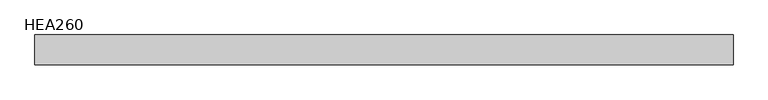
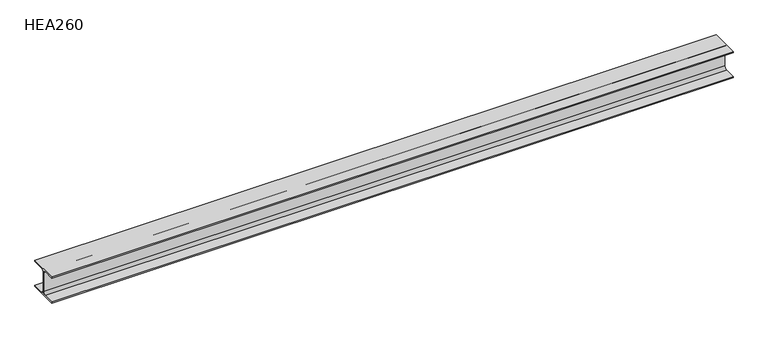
"""IFC4 building model written with IfcOpenShell, lengths in millimetres: beam geometry, HE-A : HEA260."""

import ifcopenshell
import ifcopenshell.guid

model = None  # the IFC model being written
_history = None  # IfcOwnerHistory: only IFC2X3 demands one
_inside = {}  # id of a spatial element -> (the spatial element, [elements in it])
_under = {}  # id of a project, library or spatial element -> (it, [spatial elements below it])
_declared = {}  # id of a project -> (the project, [libraries it declares])
_typed = {}  # id of a type object -> (the type object, [elements of that type])
_made_of = {}  # id of a material, layer set ... -> (it, [elements and type objects made of it])


def new_model(schema):
    """Start an empty IFC model of exactly this schema.

    Asked for "IFC4X3", IfcOpenShell would pick the latest addendum, in which some entities
    have other attributes; the version numbers below select the first issue.
    IFC2X3 requires an IfcOwnerHistory on every rooted entity: one is made here for all.
    """
    global model, _history
    if schema == "IFC4X3":
        model = ifcopenshell.file(schema_version=(4, 3, 0, 0))
    else:
        model = ifcopenshell.file(schema=schema)
    _inside.clear()
    _under.clear()
    _declared.clear()
    _typed.clear()
    _made_of.clear()
    _history = None
    if model.schema == "IFC2X3":
        org = make("IfcOrganization", Name="unknown")
        user = make(
            "IfcPersonAndOrganization",
            ThePerson=make("IfcPerson", FamilyName="unknown"),
            TheOrganization=org,
        )
        app = make(
            "IfcApplication",
            ApplicationDeveloper=org,
            Version="unknown",
            ApplicationFullName="unknown",
            ApplicationIdentifier="unknown",
        )
        _history = make(
            "IfcOwnerHistory",
            OwningUser=user,
            OwningApplication=app,
            ChangeAction="ADDED",
            CreationDate=0,
        )
    return model


def make(cls, **values):
    """One entity of the class cls with the attributes given. An attribute that is None is left unset."""
    return model.create_entity(
        cls, **{name: value for name, value in values.items() if value is not None}
    )


def rooted(cls, **values):
    """An entity with a GlobalId (a new one), such as an element, a storey or a relation."""
    return make(cls, GlobalId=ifcopenshell.guid.new(), OwnerHistory=_history, **values)


def si_unit(unit_type, name, prefix=None):
    """IfcSIUnit, for example si_unit("LENGTHUNIT", "METRE", prefix="MILLI")."""
    return make("IfcSIUnit", UnitType=unit_type, Prefix=prefix, Name=name)


def assignment(units):
    """IfcUnitAssignment: the units of a project."""
    return None if units is None else make("IfcUnitAssignment", Units=units)


def point(xyz):
    """IfcCartesianPoint."""
    return None if xyz is None else make("IfcCartesianPoint", Coordinates=xyz)


def direction(xyz):
    """IfcDirection."""
    return None if xyz is None else make("IfcDirection", DirectionRatios=xyz)


def frame(location, z_axis=None, x_axis=None):
    """IfcAxis2Placement3D, a coordinate frame: its origin and axes. An axis left out is left unset."""
    return make(
        "IfcAxis2Placement3D",
        Location=point(location),
        Axis=direction(z_axis),
        RefDirection=direction(x_axis),
    )


def frame_2d(location, x_axis=None):
    """IfcAxis2Placement2D, a coordinate frame in the plane: its origin and x axis."""
    return make(
        "IfcAxis2Placement2D", Location=point(location), RefDirection=direction(x_axis)
    )


def origin():
    """The frame at (0, 0, 0) with its axes left unset."""
    return frame((0.0, 0.0, 0.0))


def place(relative_to, where):
    """IfcLocalPlacement: puts the frame where relative to a parent placement (None: the world)."""
    return make(
        "IfcLocalPlacement", PlacementRelTo=relative_to, RelativePlacement=where
    )


def context(
    kind, dimensions, precision=None, world=None, true_north=None, identifier=None
):
    """IfcGeometricRepresentationContext, for example the 3D "Model" context."""
    return make(
        "IfcGeometricRepresentationContext",
        ContextIdentifier=identifier,
        ContextType=kind,
        CoordinateSpaceDimension=dimensions,
        Precision=precision,
        WorldCoordinateSystem=world,
        TrueNorth=true_north,
    )


def project(units=None, contexts=None):
    """IfcProject with its units and contexts."""
    return rooted(
        "IfcProject",
        Name="project",
        RepresentationContexts=contexts,
        UnitsInContext=assignment(units),
    )


def spatial(cls, under=None, at=None, **own):
    """A site, building, storey or space (cls), placed at a placement, below another one or the project."""
    s = rooted(cls, ObjectPlacement=at, **own)
    if under is not None:
        _under.setdefault(under.id(), (under, []))[1].append(s)
    return s


def polyline(points):
    """IfcPolyline through the points."""
    return make("IfcPolyline", Points=[point(p) for p in points])


def circle_curve(where, radius):
    """IfcCircle in the frame where."""
    return make("IfcCircle", Position=where, Radius=radius)


def trimmed(basis, trim1, trim2, sense, master):
    """IfcTrimmedCurve: the piece of a basis curve between two trims."""
    return make(
        "IfcTrimmedCurve",
        BasisCurve=basis,
        Trim1=trim1,
        Trim2=trim2,
        SenseAgreement=sense,
        MasterRepresentation=master,
    )


def segment(curve, same_sense, transition):
    """IfcCompositeCurveSegment."""
    return make(
        "IfcCompositeCurveSegment",
        Transition=transition,
        SameSense=same_sense,
        ParentCurve=curve,
    )


def composite_curve(segments, self_intersect=None):
    """IfcCompositeCurve: segments joined end to end."""
    return make("IfcCompositeCurve", Segments=segments, SelfIntersect=self_intersect)


def outline(outer, holes=None, kind="AREA"):
    """IfcArbitraryClosedProfileDef: a profile drawn as a closed curve; with holes, ...WithVoids."""
    if holes is None:
        return make("IfcArbitraryClosedProfileDef", ProfileType=kind, OuterCurve=outer)
    return make(
        "IfcArbitraryProfileDefWithVoids",
        ProfileType=kind,
        OuterCurve=outer,
        InnerCurves=holes,
    )


def extrude(swept, where, along, depth):
    """IfcExtrudedAreaSolid: the profile swept, set in the frame where, extruded along a direction by depth."""
    return make(
        "IfcExtrudedAreaSolid",
        SweptArea=swept,
        Position=where,
        ExtrudedDirection=direction(along),
        Depth=depth,
    )


def shape(context_of_items, identifier, shape_type, items):
    """IfcShapeRepresentation: the items that make up one representation, for example the "Body"."""
    return make(
        "IfcShapeRepresentation",
        ContextOfItems=context_of_items,
        RepresentationIdentifier=identifier,
        RepresentationType=shape_type,
        Items=items,
    )


def source(mapping_origin, context_of_items, identifier, shape_type, items):
    """IfcRepresentationMap: a shape defined once, which mapped items show again and again."""
    return make(
        "IfcRepresentationMap",
        MappingOrigin=mapping_origin,
        MappedRepresentation=shape(context_of_items, identifier, shape_type, items),
    )


def transform(
    local_origin,
    x_axis=None,
    y_axis=None,
    z_axis=None,
    scale=None,
    scale2=None,
    scale3=None,
    uniform=True,
):
    """IfcCartesianTransformationOperator3D, or its non-uniform kind. x_axis, y_axis, z_axis: its Axis1, 2, 3."""
    if uniform:
        return make(
            "IfcCartesianTransformationOperator3D",
            Axis1=direction(x_axis),
            Axis2=direction(y_axis),
            LocalOrigin=point(local_origin),
            Scale=scale,
            Axis3=direction(z_axis),
        )
    return make(
        "IfcCartesianTransformationOperator3DnonUniform",
        Axis1=direction(x_axis),
        Axis2=direction(y_axis),
        LocalOrigin=point(local_origin),
        Scale=scale,
        Axis3=direction(z_axis),
        Scale2=scale2,
        Scale3=scale3,
    )


def mapped(mapping_source, mapping_target):
    """IfcMappedItem: shows the shape of a source again, moved by a transform."""
    return make(
        "IfcMappedItem", MappingSource=mapping_source, MappingTarget=mapping_target
    )


def made_of(thing, what):
    """Note that an element or type object is made of a material, layer set ...; save() writes the relation."""
    if what is not None:
        _made_of.setdefault(what.id(), (what, []))[1].append(thing)
    return thing


def element(
    cls,
    number,
    at=None,
    inside=None,
    cuts=None,
    type_object=None,
    material=None,
    context=None,
    identifier="Body",
    shape_type=None,
    held_by="IfcProductDefinitionShape",
    body=None,
    shapes=None,
    **own,
):
    """One element of the class cls, such as IfcWall. Its Tag is "e" and its number.

    at: its placement. inside: the storey or other place that contains it. cuts: it is an
    opening in that element (IfcRelVoidsElement). A single representation is given by context,
    identifier, shape_type and body (its items); several are given by shapes. held_by: the class
    of the entity that holds the representations. save() writes the other relations.
    """
    e = rooted(cls, Tag="e%d" % number, ObjectPlacement=at, **own)
    if body is not None:
        shapes = [shape(context, identifier, shape_type, body)]
    if shapes is not None:
        e.Representation = make(held_by, Representations=shapes)
    if inside is not None:
        _inside.setdefault(inside.id(), (inside, []))[1].append(e)
    if cuts is not None:
        rooted(
            "IfcRelVoidsElement", RelatingBuildingElement=cuts, RelatedOpeningElement=e
        )
    if type_object is not None:
        _typed.setdefault(type_object.id(), (type_object, []))[1].append(e)
    return made_of(e, material)


def aggregate(whole, parts):
    """IfcRelAggregates: a whole, such as a stair, and the parts it consists of."""
    return rooted("IfcRelAggregates", RelatingObject=whole, RelatedObjects=parts)


def save(model, path):
    """Write the relations noted so far, then the file.

    IfcRelAggregates (storeys below a building ...), IfcRelContainedInSpatialStructure (elements
    in a storey), IfcRelDefinesByType, IfcRelAssociatesMaterial and IfcRelDeclares: one each for
    every whole, place, type object, material and project.
    """
    for whole, parts in _under.values():
        aggregate(whole, parts)
    for where, things in _inside.values():
        rooted(
            "IfcRelContainedInSpatialStructure",
            RelatedElements=things,
            RelatingStructure=where,
        )
    for kind, things in _typed.values():
        rooted("IfcRelDefinesByType", RelatedObjects=things, RelatingType=kind)
    for what, things in _made_of.values():
        rooted("IfcRelAssociatesMaterial", RelatedObjects=things, RelatingMaterial=what)
    for by, libraries in _declared.values():
        rooted("IfcRelDeclares", RelatingContext=by, RelatedDefinitions=libraries)
    model.write(path)


def hea260_2b03f381(model_context):
    return source(origin(), model_context, "Body", "SweptSolid", [
        extrude(outline(composite_curve([segment(polyline([(130.0, -112.5), (130.0, -125.0), (-130.0, -125.0), (-130.0, -112.5), (-27.75, -112.5)]), True, "CONTINUOUS"), segment(trimmed(circle_curve(frame_2d((-27.75, -88.5)), 24.0), [point((-27.75, -112.5))], [point((-3.75, -88.5))], True, "CARTESIAN"), True, "CONTINUOUS"), segment(polyline([(-3.75, -88.5), (-3.75, 88.5)]), True, "CONTINUOUS"), segment(trimmed(circle_curve(frame_2d((-27.75, 88.5)), 24.0), [point((-3.75, 88.5))], [point((-27.75, 112.5))], True, "CARTESIAN"), True, "CONTINUOUS"), segment(polyline([(-27.75, 112.5), (-130.0, 112.5), (-130.0, 125.0), (130.0, 125.0), (130.0, 112.5), (27.75, 112.5)]), True, "CONTINUOUS"), segment(trimmed(circle_curve(frame_2d((27.75, 88.5)), 24.0), [point((27.75, 112.5))], [point((3.75, 88.5))], True, "CARTESIAN"), True, "CONTINUOUS"), segment(polyline([(3.75, 88.5), (3.75, -88.5)]), True, "CONTINUOUS"), segment(trimmed(circle_curve(frame_2d((27.75, -88.5)), 24.0), [point((3.75, -88.5))], [point((27.75, -112.5))], True, "CARTESIAN"), True, "CONTINUOUS"), segment(polyline([(27.75, -112.5), (130.0, -112.5)]), True, "CONTINUOUS")], self_intersect=False)), frame((-3055.4, 0.0, 0.0), z_axis=(1.0, 0.0, 0.0), x_axis=(0.0, 1.0, 0.0)), (0.0, 0.0, 1.0), 6110.8),
    ])


if __name__ == "__main__":
    model = new_model("IFC4")
    model_context = context("Model", 3, world=origin())
    ifc_project = project(units=[si_unit("LENGTHUNIT", "METRE", prefix="MILLI")], contexts=[model_context])
    site = spatial("IfcSite", under=ifc_project)
    building = spatial("IfcBuilding", under=site)
    placement = place(None, origin())
    hea260_shape = hea260_2b03f381(model_context)
    element("IfcBeam", 1, ObjectType="HE-A : HEA260", at=placement, inside=building, context=model_context, shape_type="MappedRepresentation", body=[
        mapped(hea260_shape, transform((0.0, 0.0, 0.0), x_axis=(1.0, 0.0, 0.0), y_axis=(0.0, 1.0, 0.0), z_axis=(0.0, 0.0, 1.0))),
    ])
    save(model, "model.ifc")
